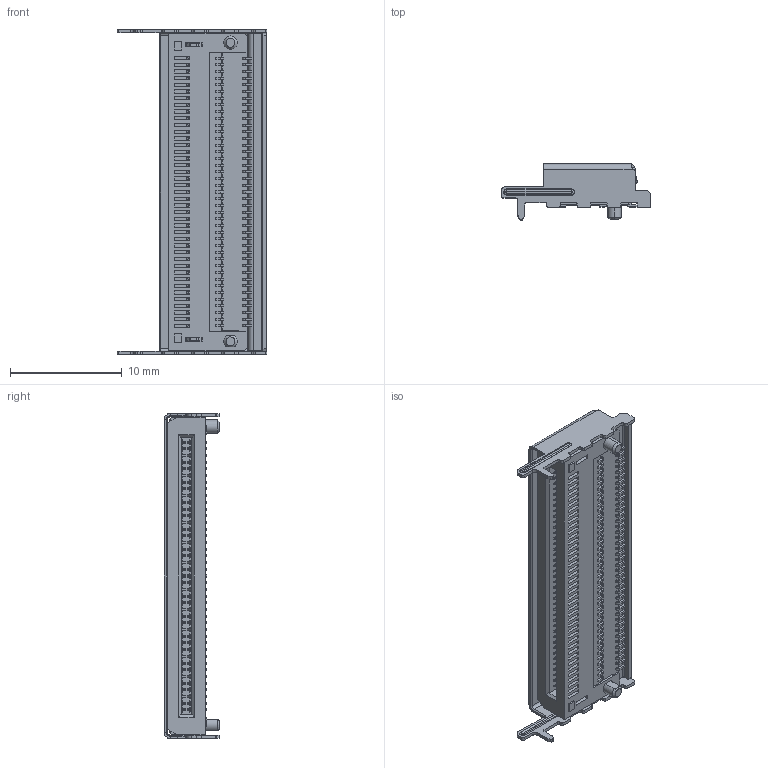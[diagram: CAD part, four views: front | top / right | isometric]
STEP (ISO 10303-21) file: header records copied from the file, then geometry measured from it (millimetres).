
FILE_DESCRIPTION((''),'2;1');
FILE_NAME('FEMALE_CONNECTOR_ASM','2026-07-20T10:32:08',('39001089'),(''),'CREO PARAMETRIC BY PTC INC, 2019471','CREO PARAMETRIC BY PTC INC, 2019471','');
FILE_SCHEMA(('AUTOMOTIVE_DESIGN { 1 0 10303 214 1 1 1 1 }'));
Products named in the file (1): FEMALE_CONNECTOR_ASM
Bounding box: 13.4 x 5 x 29.2 mm (x, y, z)
Volume: 512.5 mm3; surface area: 2788.9 mm2
Topology: 1 solids, 6 shells, 4653 faces, 13630 edges, 8764 vertices
Faces by surface type: plane 2909, cylinder 1362, torus 339, cone 35, bspline 8
Entity records: 186389 total; most frequent: CARTESIAN_POINT 31754, ORIENTED_EDGE 27244, DIRECTION 24582, EDGE_CURVE 13626, VECTOR 9405, LINE 9405, VERTEX_POINT 8764, AXIS2_PLACEMENT_3D 7587
